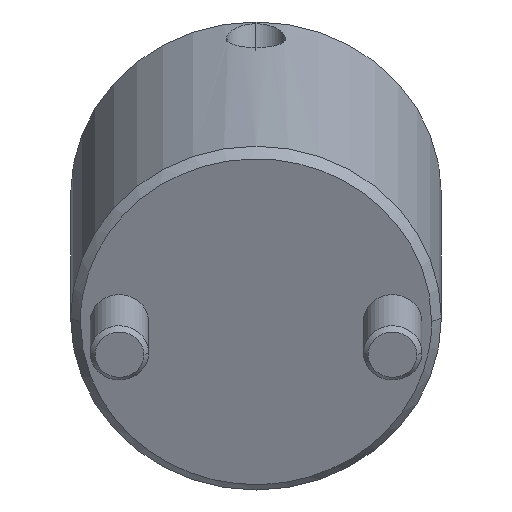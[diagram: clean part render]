
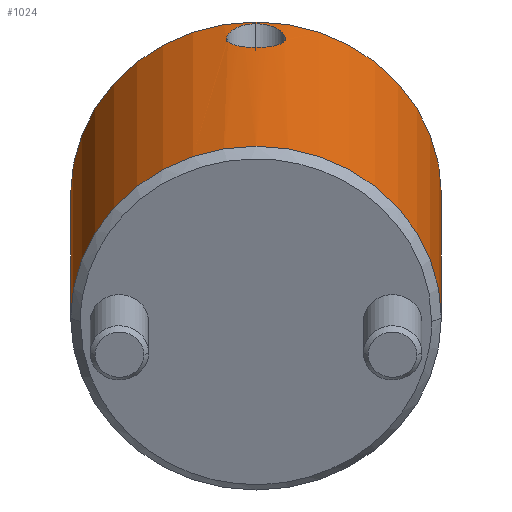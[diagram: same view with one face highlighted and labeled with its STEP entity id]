
A CAD part, front view. The second image highlights one B-rep face of the part: STEP entity #1024.
In plain terms, the highlighted cylindrical face has radius 19 mm (diameter 38 mm), a partial arc.
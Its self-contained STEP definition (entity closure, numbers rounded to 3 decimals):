
#760=CARTESIAN_POINT('Vertex',(0.,19.,1.)) ;
#763=CARTESIAN_POINT('Axis2P3D Location',(0.,0.,1.)) ;
#767=CARTESIAN_POINT('Vertex',(0.,-19.,1.)) ;
#919=CARTESIAN_POINT('Axis2P3D Location',(0.,0.,-1.8)) ;
#924=CARTESIAN_POINT('Line Origine',(0.,19.,-1.8)) ;
#928=CARTESIAN_POINT('Vertex',(0.,19.,35.)) ;
#931=CARTESIAN_POINT('Axis2P3D Location',(0.,0.,35.)) ;
#935=CARTESIAN_POINT('Vertex',(0.,-19.,35.)) ;
#938=CARTESIAN_POINT('Line Origine',(0.,-19.,-1.8)) ;
#950=CARTESIAN_POINT('Control Point',(19.,0.,34.507)) ;
#951=CARTESIAN_POINT('Control Point',(19.,0.078,34.507)) ;
#952=CARTESIAN_POINT('Control Point',(19.,0.156,34.504)) ;
#953=CARTESIAN_POINT('Control Point',(18.999,0.234,34.499)) ;
#954=CARTESIAN_POINT('Control Point',(18.995,0.47,34.472)) ;
#955=CARTESIAN_POINT('Control Point',(18.988,0.703,34.419)) ;
#956=CARTESIAN_POINT('Control Point',(18.981,0.862,34.37)) ;
#957=CARTESIAN_POINT('Control Point',(18.965,1.168,34.251)) ;
#958=CARTESIAN_POINT('Control Point',(18.945,1.453,34.089)) ;
#959=CARTESIAN_POINT('Control Point',(18.934,1.593,33.995)) ;
#960=CARTESIAN_POINT('Control Point',(18.91,1.863,33.786)) ;
#961=CARTESIAN_POINT('Control Point',(18.883,2.106,33.539)) ;
#962=CARTESIAN_POINT('Control Point',(18.87,2.221,33.405)) ;
#963=CARTESIAN_POINT('Control Point',(18.837,2.49,33.046)) ;
#964=CARTESIAN_POINT('Control Point',(18.807,2.702,32.64)) ;
#965=CARTESIAN_POINT('Control Point',(18.792,2.805,32.385)) ;
#966=CARTESIAN_POINT('Control Point',(18.772,2.935,31.94)) ;
#967=CARTESIAN_POINT('Control Point',(18.763,2.994,31.483)) ;
#968=CARTESIAN_POINT('Control Point',(18.761,3.005,31.302)) ;
#969=CARTESIAN_POINT('Control Point',(18.761,3.004,30.851)) ;
#970=CARTESIAN_POINT('Control Point',(18.773,2.929,30.409)) ;
#971=CARTESIAN_POINT('Control Point',(18.784,2.861,30.153)) ;
#972=CARTESIAN_POINT('Control Point',(18.812,2.672,29.665)) ;
#973=CARTESIAN_POINT('Control Point',(18.85,2.389,29.227)) ;
#974=CARTESIAN_POINT('Control Point',(18.87,2.229,29.028)) ;
#975=CARTESIAN_POINT('Control Point',(18.904,1.929,28.729)) ;
#976=CARTESIAN_POINT('Control Point',(18.935,1.584,28.489)) ;
#977=CARTESIAN_POINT('Control Point',(18.946,1.44,28.403)) ;
#978=CARTESIAN_POINT('Control Point',(18.971,1.083,28.223)) ;
#979=CARTESIAN_POINT('Control Point',(18.989,0.697,28.106)) ;
#980=CARTESIAN_POINT('Control Point',(18.996,0.466,28.059)) ;
#981=CARTESIAN_POINT('Control Point',(19.,0.234,28.036)) ;
#982=CARTESIAN_POINT('Control Point',(19.,0.,28.036)) ;
#983=CARTESIAN_POINT('Vertex',(19.,0.,34.507)) ;
#985=CARTESIAN_POINT('Vertex',(19.,0.,28.036)) ;
#989=CARTESIAN_POINT('Control Point',(19.,0.,28.036)) ;
#990=CARTESIAN_POINT('Control Point',(19.,-0.083,28.036)) ;
#991=CARTESIAN_POINT('Control Point',(19.,-0.167,28.039)) ;
#992=CARTESIAN_POINT('Control Point',(18.999,-0.25,28.045)) ;
#993=CARTESIAN_POINT('Control Point',(18.995,-0.498,28.071)) ;
#994=CARTESIAN_POINT('Control Point',(18.987,-0.743,28.124)) ;
#995=CARTESIAN_POINT('Control Point',(18.979,-0.906,28.171)) ;
#996=CARTESIAN_POINT('Control Point',(18.954,-1.38,28.345)) ;
#997=CARTESIAN_POINT('Control Point',(18.917,-1.805,28.617)) ;
#998=CARTESIAN_POINT('Control Point',(18.89,-2.065,28.838)) ;
#999=CARTESIAN_POINT('Control Point',(18.842,-2.459,29.289)) ;
#1000=CARTESIAN_POINT('Control Point',(18.802,-2.738,29.829)) ;
#1001=CARTESIAN_POINT('Control Point',(18.788,-2.834,30.072)) ;
#1002=CARTESIAN_POINT('Control Point',(18.769,-2.952,30.499)) ;
#1003=CARTESIAN_POINT('Control Point',(18.762,-2.999,30.944)) ;
#1004=CARTESIAN_POINT('Control Point',(18.761,-3.007,31.124)) ;
#1005=CARTESIAN_POINT('Control Point',(18.762,-2.996,31.58)) ;
#1006=CARTESIAN_POINT('Control Point',(18.776,-2.91,32.034)) ;
#1007=CARTESIAN_POINT('Control Point',(18.788,-2.833,32.302)) ;
#1008=CARTESIAN_POINT('Control Point',(18.818,-2.629,32.814)) ;
#1009=CARTESIAN_POINT('Control Point',(18.857,-2.334,33.273)) ;
#1010=CARTESIAN_POINT('Control Point',(18.877,-2.167,33.484)) ;
#1011=CARTESIAN_POINT('Control Point',(18.91,-1.864,33.795)) ;
#1012=CARTESIAN_POINT('Control Point',(18.94,-1.519,34.046)) ;
#1013=CARTESIAN_POINT('Control Point',(18.951,-1.378,34.134)) ;
#1014=CARTESIAN_POINT('Control Point',(18.974,-1.034,34.316)) ;
#1015=CARTESIAN_POINT('Control Point',(18.99,-0.66,34.437)) ;
#1016=CARTESIAN_POINT('Control Point',(18.997,-0.44,34.485)) ;
#1017=CARTESIAN_POINT('Control Point',(19.,-0.221,34.507)) ;
#1018=CARTESIAN_POINT('Control Point',(19.,0.,34.507)) ;
#764=DIRECTION('Axis2P3D Direction',(0.,0.,1.)) ;
#920=DIRECTION('Axis2P3D Direction',(0.,-0.,1.)) ;
#921=DIRECTION('Axis2P3D XDirection',(0.,-1.,0.)) ;
#925=DIRECTION('Vector Direction',(0.,0.,1.)) ;
#932=DIRECTION('Axis2P3D Direction',(0.,-0.,1.)) ;
#939=DIRECTION('Vector Direction',(0.,0.,1.)) ;
#765=AXIS2_PLACEMENT_3D('Circle Axis2P3D',#763,#764,$) ;
#922=AXIS2_PLACEMENT_3D('Cylinder Axis2P3D',#919,#920,#921) ;
#933=AXIS2_PLACEMENT_3D('Circle Axis2P3D',#931,#932,$) ;
#944=ORIENTED_EDGE('',*,*,#930,.F.) ;
#945=ORIENTED_EDGE('',*,*,#937,.T.) ;
#946=ORIENTED_EDGE('',*,*,#942,.T.) ;
#947=ORIENTED_EDGE('',*,*,#769,.F.) ;
#1021=ORIENTED_EDGE('',*,*,#987,.T.) ;
#1022=ORIENTED_EDGE('',*,*,#1019,.T.) ;
#1023=FACE_BOUND('',#1020,.T.) ;
#926=VECTOR('Line Direction',#925,1.) ;
#940=VECTOR('Line Direction',#939,1.) ;
#1024=ADVANCED_FACE('MANIFOLD_SOLID_BREP #1116',(#948,#1023),#923,.T.) ;
#949=B_SPLINE_CURVE_WITH_KNOTS('',5,(#950,#951,#952,#953,#954,#955,#956,#957,#958,#959,#960,#961,#962,#963,#964,#965,#966,#967,#968,#969,#970,#971,#972,#973,#974,#975,#976,#977,#978,#979,#980,#981,#982),.UNSPECIFIED.,.F.,.U.,(6,3,3,3,3,3,3,3,3,3,6),(0.,0.58,1.759,2.976,4.225,6.108,7.354,9.198,11.01,12.214,13.887),.UNSPECIFIED.) ;
#988=B_SPLINE_CURVE_WITH_KNOTS('',5,(#989,#990,#991,#992,#993,#994,#995,#996,#997,#998,#999,#1000,#1001,#1002,#1003,#1004,#1005,#1006,#1007,#1008,#1009,#1010,#1011,#1012,#1013,#1014,#1015,#1016,#1017,#1018),.UNSPECIFIED.,.F.,.U.,(6,3,3,3,3,3,3,3,3,6),(0.,0.6,1.803,4.225,6.063,7.301,9.178,11.046,12.251,13.886),.UNSPECIFIED.) ;
#766=CIRCLE('generated circle',#765,19.) ;
#934=CIRCLE('generated circle',#933,19.) ;
#923=CYLINDRICAL_SURFACE('generated cylinder',#922,19.) ;
#769=EDGE_CURVE('',#761,#768,#766,.F.) ;
#930=EDGE_CURVE('',#929,#761,#927,.F.) ;
#937=EDGE_CURVE('',#929,#936,#934,.F.) ;
#942=EDGE_CURVE('',#936,#768,#941,.F.) ;
#987=EDGE_CURVE('',#984,#986,#949,.T.) ;
#1019=EDGE_CURVE('',#986,#984,#988,.T.) ;
#943=EDGE_LOOP('',(#944,#945,#946,#947)) ;
#1020=EDGE_LOOP('',(#1021,#1022)) ;
#948=FACE_OUTER_BOUND('',#943,.T.) ;
#927=LINE('Line',#924,#926) ;
#941=LINE('Line',#938,#940) ;
#761=VERTEX_POINT('',#760) ;
#768=VERTEX_POINT('',#767) ;
#929=VERTEX_POINT('',#928) ;
#936=VERTEX_POINT('',#935) ;
#984=VERTEX_POINT('',#983) ;
#986=VERTEX_POINT('',#985) ;
